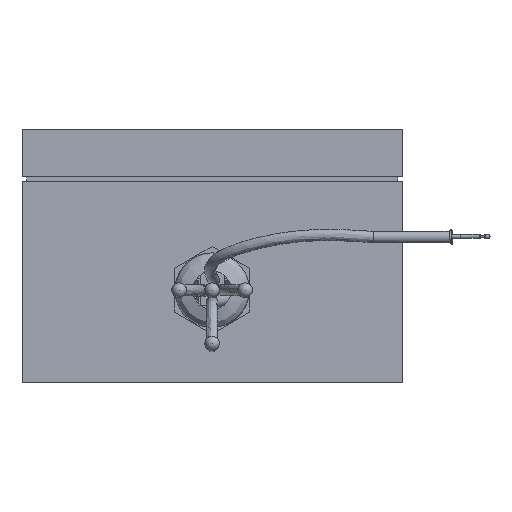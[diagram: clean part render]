
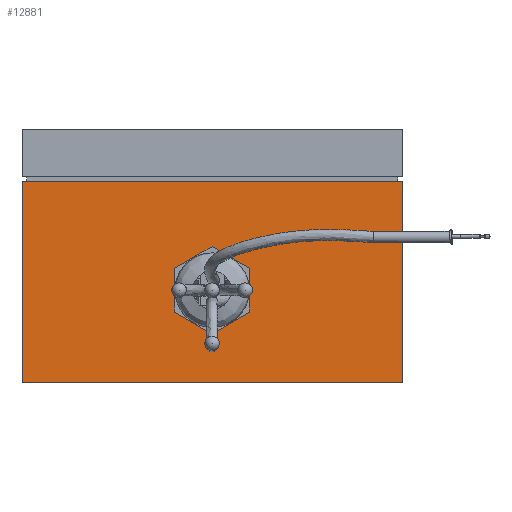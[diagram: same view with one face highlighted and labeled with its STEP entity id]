
A CAD part, front view. The second image highlights one B-rep face of the part: STEP entity #12881.
In plain terms, the highlighted planar face has unit normal (0, -1, 0).
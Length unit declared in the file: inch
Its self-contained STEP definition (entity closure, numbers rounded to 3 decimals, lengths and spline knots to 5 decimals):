
#188=FACE_BOUND('',#1813,.T.);
#286=PLANE('',#13782);
#1037=FACE_OUTER_BOUND('',#1812,.T.);
#1812=EDGE_LOOP('',(#9362,#9363,#9364,#9365));
#1813=EDGE_LOOP('',(#9366,#9367,#9368,#9369,#9370,#9371));
#2795=LINE('',#20726,#4352);
#2796=LINE('',#20728,#4353);
#2797=LINE('',#20730,#4354);
#2798=LINE('',#20731,#4355);
#2799=LINE('',#20734,#4356);
#2800=LINE('',#20736,#4357);
#2801=LINE('',#20738,#4358);
#2802=LINE('',#20740,#4359);
#2803=LINE('',#20742,#4360);
#2804=LINE('',#20743,#4361);
#4352=VECTOR('',#15028,0.3937);
#4353=VECTOR('',#15029,0.3937);
#4354=VECTOR('',#15030,0.3937);
#4355=VECTOR('',#15031,0.3937);
#4356=VECTOR('',#15032,0.3937);
#4357=VECTOR('',#15033,0.3937);
#4358=VECTOR('',#15034,0.3937);
#4359=VECTOR('',#15035,0.3937);
#4360=VECTOR('',#15036,0.3937);
#4361=VECTOR('',#15037,0.3937);
#5965=VERTEX_POINT('',#20724);
#5966=VERTEX_POINT('',#20725);
#5967=VERTEX_POINT('',#20727);
#5968=VERTEX_POINT('',#20729);
#5969=VERTEX_POINT('',#20732);
#5970=VERTEX_POINT('',#20733);
#5971=VERTEX_POINT('',#20735);
#5972=VERTEX_POINT('',#20737);
#5973=VERTEX_POINT('',#20739);
#5974=VERTEX_POINT('',#20741);
#7271=EDGE_CURVE('',#5965,#5966,#2795,.T.);
#7272=EDGE_CURVE('',#5966,#5967,#2796,.T.);
#7273=EDGE_CURVE('',#5968,#5967,#2797,.T.);
#7274=EDGE_CURVE('',#5965,#5968,#2798,.T.);
#7275=EDGE_CURVE('',#5969,#5970,#2799,.T.);
#7276=EDGE_CURVE('',#5969,#5971,#2800,.T.);
#7277=EDGE_CURVE('',#5972,#5971,#2801,.T.);
#7278=EDGE_CURVE('',#5972,#5973,#2802,.T.);
#7279=EDGE_CURVE('',#5974,#5973,#2803,.T.);
#7280=EDGE_CURVE('',#5974,#5970,#2804,.T.);
#9362=ORIENTED_EDGE('',*,*,#7271,.T.);
#9363=ORIENTED_EDGE('',*,*,#7272,.T.);
#9364=ORIENTED_EDGE('',*,*,#7273,.F.);
#9365=ORIENTED_EDGE('',*,*,#7274,.F.);
#9366=ORIENTED_EDGE('',*,*,#7275,.F.);
#9367=ORIENTED_EDGE('',*,*,#7276,.T.);
#9368=ORIENTED_EDGE('',*,*,#7277,.F.);
#9369=ORIENTED_EDGE('',*,*,#7278,.T.);
#9370=ORIENTED_EDGE('',*,*,#7279,.F.);
#9371=ORIENTED_EDGE('',*,*,#7280,.T.);
#12881=ADVANCED_FACE('',(#1037,#188),#286,.T.);
#13782=AXIS2_PLACEMENT_3D('',#20723,#15026,#15027);
#15026=DIRECTION('center_axis',(0.,-1.,0.));
#15027=DIRECTION('ref_axis',(0.,0.,-1.));
#15028=DIRECTION('',(1.,0.,0.));
#15029=DIRECTION('',(0.,0.,1.));
#15030=DIRECTION('',(1.,0.,0.));
#15031=DIRECTION('',(0.,0.,1.));
#15032=DIRECTION('',(0.,0.,-1.));
#15033=DIRECTION('',(0.866,0.,0.5));
#15034=DIRECTION('',(-0.866,0.,0.5));
#15035=DIRECTION('',(0.,0.,-1.));
#15036=DIRECTION('',(0.866,0.,0.5));
#15037=DIRECTION('',(-0.866,0.,0.5));
#20723=CARTESIAN_POINT('Origin',(2.99274,1.14903,0.));
#20724=CARTESIAN_POINT('',(0.63274,1.14903,0.));
#20725=CARTESIAN_POINT('',(5.35274,1.14903,0.));
#20726=CARTESIAN_POINT('',(0.63274,1.14903,0.));
#20727=CARTESIAN_POINT('',(5.35274,1.14903,2.5));
#20728=CARTESIAN_POINT('',(5.35274,1.14903,0.));
#20729=CARTESIAN_POINT('',(0.63274,1.14903,2.5));
#20730=CARTESIAN_POINT('',(0.63274,1.14903,2.5));
#20731=CARTESIAN_POINT('',(0.63274,1.14903,0.));
#20732=CARTESIAN_POINT('',(2.52274,1.14903,1.42135));
#20733=CARTESIAN_POINT('',(2.52274,1.14903,0.87865));
#20734=CARTESIAN_POINT('',(2.52274,1.14903,1.42135));
#20735=CARTESIAN_POINT('',(2.99274,1.14903,1.69271));
#20736=CARTESIAN_POINT('',(2.52274,1.14903,1.42135));
#20737=CARTESIAN_POINT('',(3.46274,1.14903,1.42135));
#20738=CARTESIAN_POINT('',(3.46274,1.14903,1.42135));
#20739=CARTESIAN_POINT('',(3.46274,1.14903,0.87865));
#20740=CARTESIAN_POINT('',(3.46274,1.14903,1.42135));
#20741=CARTESIAN_POINT('',(2.99274,1.14903,0.60729));
#20742=CARTESIAN_POINT('',(2.99274,1.14903,0.60729));
#20743=CARTESIAN_POINT('',(2.99274,1.14903,0.60729));
